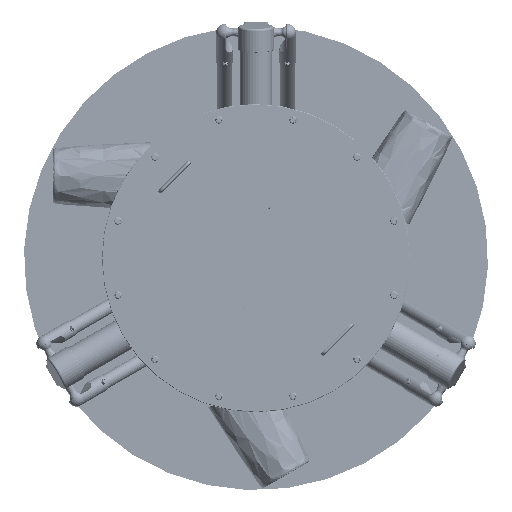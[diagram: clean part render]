
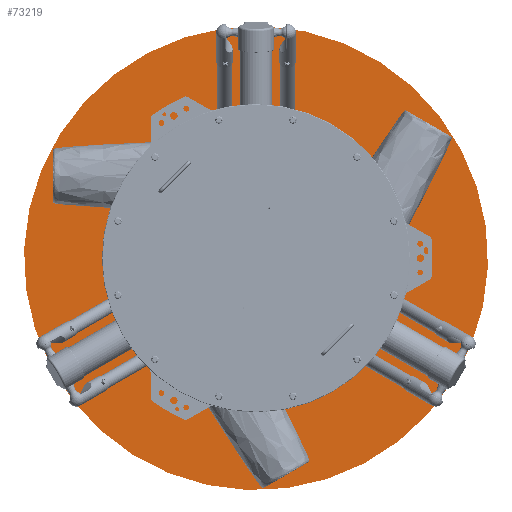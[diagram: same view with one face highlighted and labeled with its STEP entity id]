
A CAD part, front view. The second image highlights one B-rep face of the part: STEP entity #73219.
In plain terms, the highlighted planar face has unit normal (0, -1, 0) as drawn and (0, 1, 0) by its records, which use the part's own axes.
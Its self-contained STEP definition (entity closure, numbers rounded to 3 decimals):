
#8677 = EDGE_CURVE ( 'NONE', #72114, #231195, #190062, .T. ) ;
#13987 = DIRECTION ( 'NONE',  ( -1., 0., 0. ) ) ;
#21379 = AXIS2_PLACEMENT_3D ( 'NONE', #173347, #236075, #111313 ) ;
#41734 = ORIENTED_EDGE ( 'NONE', *, *, #8677, .T. ) ;
#66376 = EDGE_CURVE ( 'NONE', #231195, #72114, #116390, .T. ) ;
#72114 = VERTEX_POINT ( 'NONE', #79910 ) ;
#73219 = ADVANCED_FACE ( 'NONE', ( #160981 ), #152374, .F. ) ;
#76414 = ORIENTED_EDGE ( 'NONE', *, *, #66376, .T. ) ;
#79910 = CARTESIAN_POINT ( 'NONE',  ( -616.564, 102.459, 1130. ) ) ;
#85569 = CARTESIAN_POINT ( 'NONE',  ( 513.436, 102.459, 1130. ) ) ;
#94151 = DIRECTION ( 'NONE',  ( 0., 1., 0. ) ) ;
#111313 = DIRECTION ( 'NONE',  ( 1., 0., 0. ) ) ;
#116390 = CIRCLE ( 'NONE', #141070, 565. ) ;
#117280 = EDGE_LOOP ( 'NONE', ( #41734, #76414 ) ) ;
#138775 = DIRECTION ( 'NONE',  ( 0., 1., 0. ) ) ;
#141070 = AXIS2_PLACEMENT_3D ( 'NONE', #218971, #94151, #239883 ) ;
#152374 = PLANE ( 'NONE',  #21379 ) ;
#160981 = FACE_OUTER_BOUND ( 'NONE', #117280, .T. ) ;
#173347 = CARTESIAN_POINT ( 'NONE',  ( -51.564, 102.459, 1130. ) ) ;
#190062 = CIRCLE ( 'NONE', #194344, 565. ) ;
#194344 = AXIS2_PLACEMENT_3D ( 'NONE', #263523, #138775, #13987 ) ;
#218971 = CARTESIAN_POINT ( 'NONE',  ( -51.564, 102.459, 1130. ) ) ;
#231195 = VERTEX_POINT ( 'NONE', #85569 ) ;
#236075 = DIRECTION ( 'NONE',  ( 0., -1., 0. ) ) ;
#239883 = DIRECTION ( 'NONE',  ( -1., 0., 0. ) ) ;
#263523 = CARTESIAN_POINT ( 'NONE',  ( -51.564, 102.459, 1130. ) ) ;
